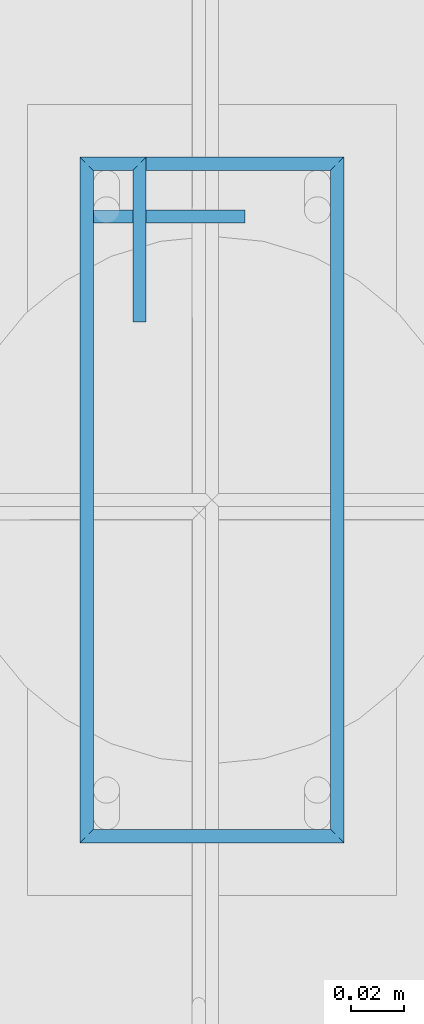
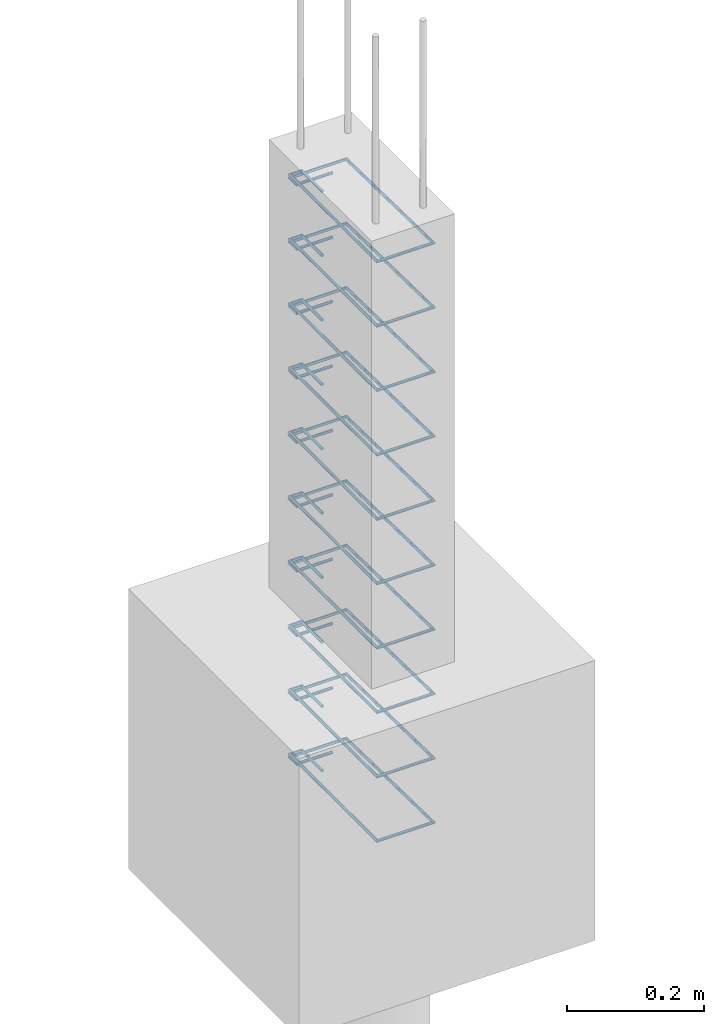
# One storey, part 111 of 119: 10 reinforcing bars.
"""IFC4 building model written with IfcOpenShell, lengths in centimetres."""

from ifc_helpers import new_model, entity, si_unit, derived_unit, frame, origin_with_axes, place, context, project, spatial, source, transform, mapped, element, save


model = new_model("IFC4")

# Units and contexts
model_context = context("Model", 3, precision=1e-05, world=origin_with_axes(), identifier="Body")
ifc_project = project(units=[si_unit("LENGTHUNIT", "METRE", prefix="CENTI"), si_unit("VOLUMEUNIT", "CUBIC_METRE"), si_unit("AREAUNIT", "SQUARE_METRE"), si_unit("POWERUNIT", "WATT"), si_unit("LUMINOUSFLUXUNIT", "LUMEN"), si_unit("ELECTRICCURRENTUNIT", "AMPERE"), si_unit("PRESSUREUNIT", "PASCAL", prefix="KILO"), si_unit("MASSUNIT", "GRAM", prefix="KILO"), si_unit("PLANEANGLEUNIT", "RADIAN"), derived_unit("VOLUMETRICFLOWRATEUNIT", [(si_unit("LENGTHUNIT", "METRE"), 3), (si_unit("TIMEUNIT", "SECOND"), -1)])], contexts=[model_context])

# Site, building, storey
site_placement = place(None, frame((-4000.0, 0.0, 0.0), z_axis=(0.0, 0.0, 1.0), x_axis=(1.0, 0.0, 0.0)))
site = spatial("IfcSite", under=ifc_project, at=site_placement, Name="PADRÃO")
building_placement = place(site_placement, frame((0.0, 0.0, -14.0)))
building = spatial("IfcBuilding", under=site, at=building_placement, Name="CRECHE PRÉ-ESCOLA TIPO 2")
storey_placement = place(building_placement, origin_with_axes())
storey = spatial("IfcBuildingStorey", under=building, at=storey_placement, Name="FUNDAÇÃO", CompositionType="ELEMENT", Elevation=-14.0)

# Reinforcing bars
shared_shape = source(origin_with_axes(), model_context, "Body", "AdvancedSweptSolid", [
    entity("IfcSweptDiskSolid", entity("IfcCompositeCurve", [entity("IfcCompositeCurveSegment", "CONTINUOUS", True, entity("IfcPolyline", [entity("IfcCartesianPoint", [4.25, 21.75, 0.0]), entity("IfcCartesianPoint", [4.25, 27.75, 0.0])])), entity("IfcCompositeCurveSegment", "CONTINUOUS", True, entity("IfcPolyline", [entity("IfcCartesianPoint", [4.25, 27.75, 0.0]), entity("IfcCartesianPoint", [2.25, 27.75, 0.0])])), entity("IfcCompositeCurveSegment", "CONTINUOUS", True, entity("IfcPolyline", [entity("IfcCartesianPoint", [2.25, 27.75, 0.0]), entity("IfcCartesianPoint", [2.25, 2.25, 0.0])])), entity("IfcCompositeCurveSegment", "CONTINUOUS", True, entity("IfcPolyline", [entity("IfcCartesianPoint", [2.25, 2.25, 0.0]), entity("IfcCartesianPoint", [11.75, 2.25, 0.0])])), entity("IfcCompositeCurveSegment", "CONTINUOUS", True, entity("IfcPolyline", [entity("IfcCartesianPoint", [11.75, 2.25, 0.0]), entity("IfcCartesianPoint", [11.75, 27.75, -0.5])])), entity("IfcCompositeCurveSegment", "CONTINUOUS", True, entity("IfcPolyline", [entity("IfcCartesianPoint", [11.75, 27.75, -0.5]), entity("IfcCartesianPoint", [2.25, 27.75, -0.5])])), entity("IfcCompositeCurveSegment", "CONTINUOUS", True, entity("IfcPolyline", [entity("IfcCartesianPoint", [2.25, 27.75, -0.5]), entity("IfcCartesianPoint", [2.25, 25.75, -0.5])])), entity("IfcCompositeCurveSegment", "CONTINUOUS", True, entity("IfcPolyline", [entity("IfcCartesianPoint", [2.25, 25.75, -0.5]), entity("IfcCartesianPoint", [8.25, 25.75, -0.5])]))], False), 0.25),
])
for number, where, z_axis, x_axis, name in (
    (1, (3132.43, 3708.26, -40.25), (0.0, 0.0, 1.0), (1.0, 0.0, 0.0), "P32 - Estribo"),
    (2, (3132.43, 3708.26, -28.75), (0.0, 0.0, 1.0), (1.0, 0.0, 0.0), "P32 - Estribo"),
    (3, (3132.43, 3708.26, -17.25), (0.0, 0.0, 1.0), (1.0, 0.0, 0.0), "P32 - Estribo"),
    (4, (3132.43, 3708.26, -5.75), (0.0, 0.0, 1.0), (1.0, 0.0, 0.0), "P32 - Estribo"),
    (5, (3132.43, 3708.26, -74.75), (0.0, 0.0, 1.0), (1.0, 0.0, 0.0), "P32 - Estribo"),
    (6, (3132.43, 3708.26, -109.25), (0.0, 0.0, 1.0), (1.0, 0.0, 0.0), "P32 - Estribo"),
    (7, (3132.43, 3708.26, -97.75), (0.0, 0.0, 1.0), (1.0, 0.0, 0.0), "P32 - Estribo"),
    (8, (3132.43, 3708.26, -86.25), (0.0, 0.0, 1.0), (1.0, 0.0, 0.0), "P32 - Estribo"),
    (9, (3132.43, 3708.26, -63.25), (0.0, 0.0, 1.0), (1.0, 0.0, 0.0), "P32 - Estribo"),
    (10, (3132.43, 3708.26, -51.75), (0.0, 0.0, 1.0), (1.0, 0.0, 0.0), "P32 - Estribo"),
):
    element("IfcReinforcingBar", number, at=place(storey_placement, frame(where, z_axis=z_axis, x_axis=x_axis)), inside=storey, Name=name, BarLength=0.0, CrossSectionArea=1.9634954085e-05, NominalDiameter=0.5, PredefinedType="MAIN", context=model_context, shape_type="MappedRepresentation", body=[
        mapped(shared_shape, transform((0.0, 0.0, 0.0), scale=1.0)),
    ])

save(model, "model.ifc")
